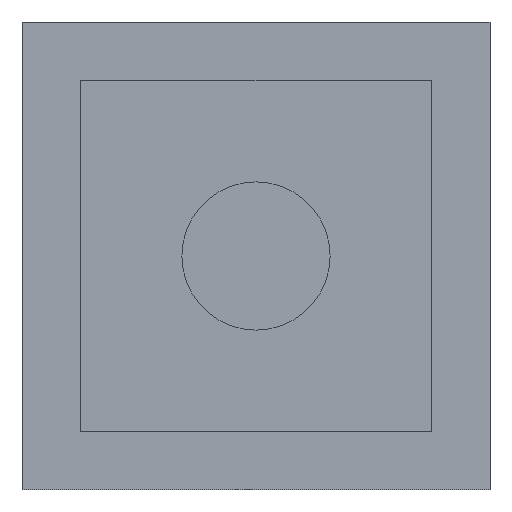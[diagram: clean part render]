
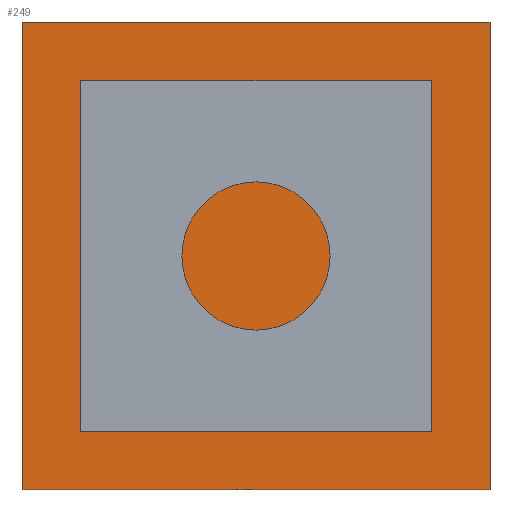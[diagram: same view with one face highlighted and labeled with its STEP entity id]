
A CAD part, front view. The second image highlights one B-rep face of the part: STEP entity #249.
In plain terms, the highlighted planar face has unit normal (0, -1, 0).
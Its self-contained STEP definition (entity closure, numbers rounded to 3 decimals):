
#128 = CARTESIAN_POINT ( 'NONE',  ( 2.869, 326.411, -60. ) ) ;
#230 = VERTEX_POINT ( 'NONE', #1137 ) ;
#249 = ADVANCED_FACE ( 'NONE', ( #660 ), #1719, .F. ) ;
#253 = CARTESIAN_POINT ( 'NONE',  ( 2.869, 326.411, 60. ) ) ;
#262 = ORIENTED_EDGE ( 'NONE', *, *, #2171, .F. ) ;
#301 = EDGE_CURVE ( 'NONE', #1542, #747, #1518, .T. ) ;
#414 = DIRECTION ( 'NONE',  ( 0., 1., 0. ) ) ;
#457 = VECTOR ( 'NONE', #1097, 1000. ) ;
#502 = CARTESIAN_POINT ( 'NONE',  ( 2.869, 326.411, 60. ) ) ;
#593 = DIRECTION ( 'NONE',  ( 0., 0., -1. ) ) ;
#660 = FACE_OUTER_BOUND ( 'NONE', #2264, .T. ) ;
#747 = VERTEX_POINT ( 'NONE', #1196 ) ;
#784 = VERTEX_POINT ( 'NONE', #2291 ) ;
#879 = LINE ( 'NONE', #128, #2172 ) ;
#999 = CARTESIAN_POINT ( 'NONE',  ( 2.869, 326.411, -60. ) ) ;
#1028 = ORIENTED_EDGE ( 'NONE', *, *, #2190, .F. ) ;
#1031 = AXIS2_PLACEMENT_3D ( 'NONE', #999, #414, #593 ) ;
#1097 = DIRECTION ( 'NONE',  ( 0., 0., 1. ) ) ;
#1137 = CARTESIAN_POINT ( 'NONE',  ( -117.131, 326.411, -60. ) ) ;
#1196 = CARTESIAN_POINT ( 'NONE',  ( 2.869, 326.411, 60. ) ) ;
#1223 = CARTESIAN_POINT ( 'NONE',  ( -117.131, 326.411, 60. ) ) ;
#1263 = DIRECTION ( 'NONE',  ( -1., 0., 0. ) ) ;
#1274 = LINE ( 'NONE', #502, #1498 ) ;
#1294 = CARTESIAN_POINT ( 'NONE',  ( -117.131, 326.411, 60. ) ) ;
#1498 = VECTOR ( 'NONE', #2148, 1000. ) ;
#1518 = LINE ( 'NONE', #253, #2055 ) ;
#1542 = VERTEX_POINT ( 'NONE', #1223 ) ;
#1606 = ORIENTED_EDGE ( 'NONE', *, *, #301, .F. ) ;
#1704 = ORIENTED_EDGE ( 'NONE', *, *, #1754, .F. ) ;
#1719 = PLANE ( 'NONE',  #1031 ) ;
#1754 = EDGE_CURVE ( 'NONE', #230, #1542, #2340, .T. ) ;
#2055 = VECTOR ( 'NONE', #2077, 1000. ) ;
#2077 = DIRECTION ( 'NONE',  ( 1., 0., 0. ) ) ;
#2148 = DIRECTION ( 'NONE',  ( 0., 0., -1. ) ) ;
#2171 = EDGE_CURVE ( 'NONE', #784, #230, #879, .T. ) ;
#2172 = VECTOR ( 'NONE', #1263, 1000. ) ;
#2190 = EDGE_CURVE ( 'NONE', #747, #784, #1274, .T. ) ;
#2264 = EDGE_LOOP ( 'NONE', ( #1028, #1606, #1704, #262 ) ) ;
#2291 = CARTESIAN_POINT ( 'NONE',  ( 2.869, 326.411, -60. ) ) ;
#2340 = LINE ( 'NONE', #1294, #457 ) ;
